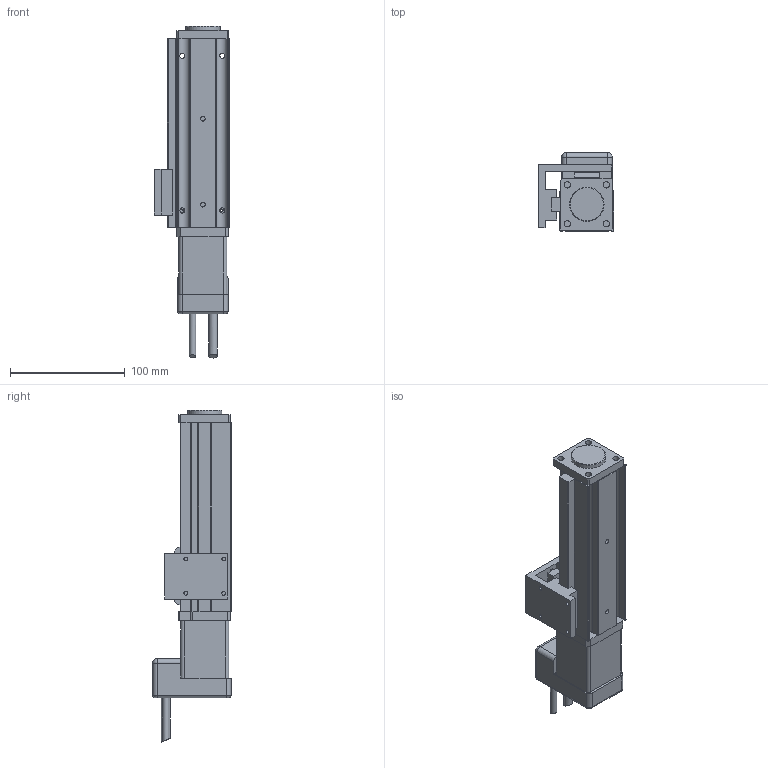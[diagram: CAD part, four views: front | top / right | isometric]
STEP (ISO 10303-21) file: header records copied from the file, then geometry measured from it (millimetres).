
FILE_DESCRIPTION(/* description */ ('Alibre Inc.'),/* implementation_level */ '2;1');
FILE_NAME(/* name */ 'export0',/* time_stamp */ '2011-08-02T11:25:14-04:00',/* author */ (''),/* organization */ (''),/* preprocessor_version */ 'ST-DEVELOPER v10',/* originating_system */ 'Alibre',/* authorisation */ '');
FILE_SCHEMA (('CONFIG_CONTROL_DESIGN'));
Length unit declared in the file: centimetre
Products named in the file (3): ID_1; ID_2
Bounding box: 66 x 68.8 x 289.76 mm (x, y, z)
Volume: 522320.3 mm3; surface area: 82633.5 mm2
Topology: 2 solids, 2 shells, 220 faces, 585 edges, 373 vertices
Faces by surface type: plane 130, cylinder 79, cone 5, torus 4, sphere 2
Full cylindrical faces by diameter (mm): 2.459 x3, 2.5 x1, 3 x2, 3.242 x12, 4 x2, 4.5 x4, 5 x1, 5.5 x5, 7.5 x1, 8 x4, 12 x1, 22 x1, 30 x1
Entity records: 6500 total; most frequent: CARTESIAN_POINT 1173, ORIENTED_EDGE 1038, DIRECTION 927, EDGE_CURVE 519, AXIS2_PLACEMENT_3D 365, VERTEX_POINT 356, FACE_BOUND 313, EDGE_LOOP 309
